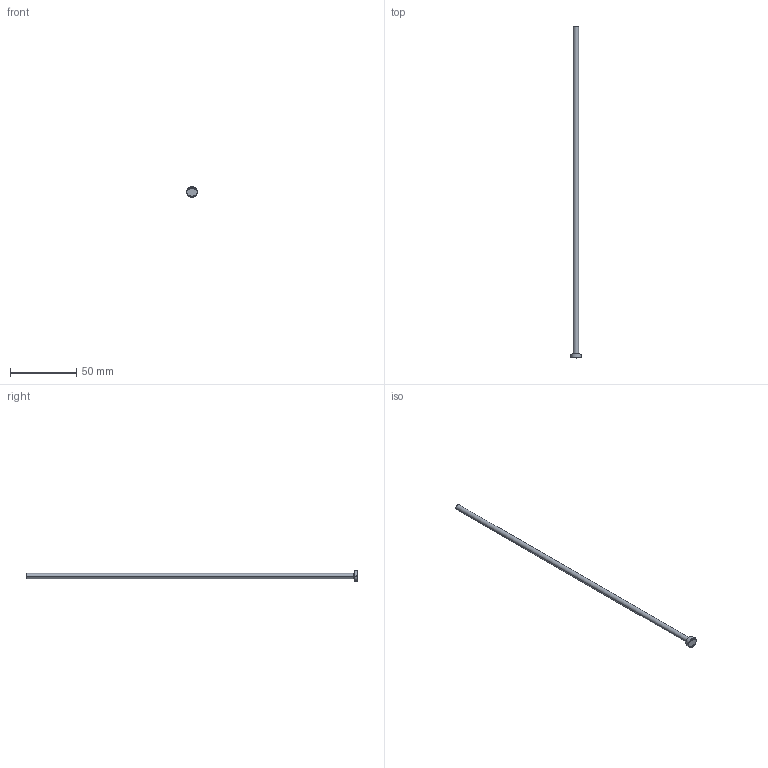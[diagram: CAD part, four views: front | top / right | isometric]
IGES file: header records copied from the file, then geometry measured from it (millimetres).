
Start section: SolidWorks IGES file using analytic representation for surfaces
Global section: file name: C:\Users\User\Downloads\Matripeça 31-08 tar\PB - PINO EXTRATOR TIPO _B_ (CATÁLOGO)\PB04,0\PB04,0250.IGS; native system: SolidWorks 2024; preprocessor: SolidWorks 2024; author: User; date: 260901.142214; units: millimetre
Bounding box: 8 x 250 x 8 mm (x, y, z)
Surface area: 3284.6 mm2 (no closed solid volume)
Topology: 0 solids, 0 shells, 406 faces, 3430 edges, 3430 vertices
Faces by surface type: bspline 392, revolution 14
